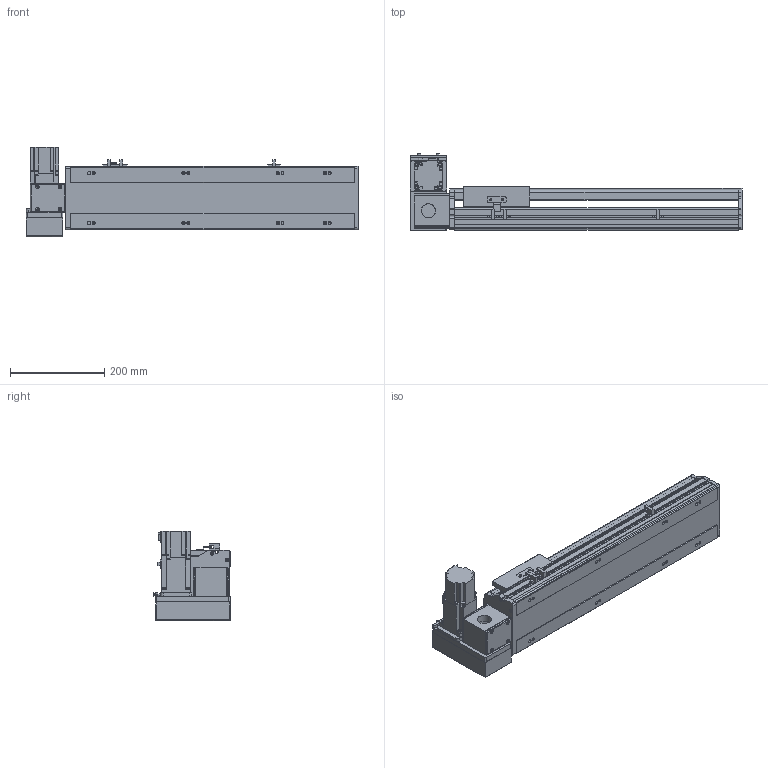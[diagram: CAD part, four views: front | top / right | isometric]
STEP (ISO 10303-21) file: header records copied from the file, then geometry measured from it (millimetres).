
FILE_DESCRIPTION(/* description */ ('STEP AP214'),/* implementation_level */ '2;1');
FILE_NAME(/* name */ 'PBS140S-P40-S350-LU-T40-C1-N(0)',/* time_stamp */ '2022-06-09T02:33:18+02:00',/* author */ ('License CC BY-ND 4.0'),/* organization */ ('CADENAS'),/* preprocessor_version */ 'ST-DEVELOPER v18.102',/* originating_system */ 'PARTsolutions',/* authorisation */ ' ');
FILE_SCHEMA (('AUTOMOTIVE_DESIGN {1 0 10303 214 3 1 1}'));
Length unit declared in the file: millimetre
Products named in the file (7): PBS140S-P40-S350-LU-T40-C1-N(0); PBS140S_sensor; PBS140S_plant; PBS140S_sliser; T40-p1; PBS140ST-LU_motors; PBS140S-S350()_body
Assembly tree (8 placements, depth 2):
  PBS140S-P40-S350-LU-T40-C1-N(0)
    PBS140S_sensor  x3
    PBS140S_plant
    PBS140S_sliser
    T40-p1
    PBS140ST-LU_motors
    PBS140S-S350()_body
Bounding box: 704 x 162.5 x 189.7 mm (x, y, z)
Volume: 4079031.8 mm3; surface area: 734950.2 mm2
Topology: 8 solids, 8 shells, 1035 faces, 2751 edges, 1801 vertices
Faces by surface type: plane 678, cylinder 313, cone 34, sphere 8, torus 2
Full cylindrical faces by diameter (mm): 3.242 x4, 4 x2, 4.134 x4, 4.4 x8, 4.5 x2, 4.8 x4, 4.917 x16, 5.5 x7, 6 x2, 7 x10, 7.5 x8, 8 x12, 8.5 x4, 10.5 x8, 14 x1, 30 x2, 50 x2
Entity records: 29664 total; most frequent: CARTESIAN_POINT 5368, DIRECTION 5068, ORIENTED_EDGE 4822, EDGE_CURVE 2411, AXIS2_PLACEMENT_3D 1739, VERTEX_POINT 1657, LINE 1590, VECTOR 1590
